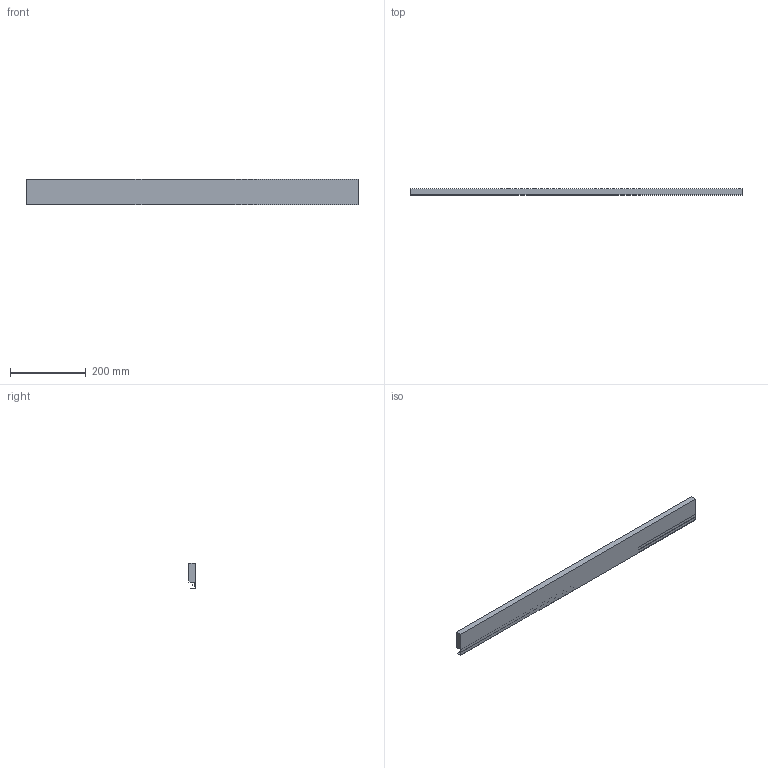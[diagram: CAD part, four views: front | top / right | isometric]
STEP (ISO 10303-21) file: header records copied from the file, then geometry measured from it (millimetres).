
FILE_DESCRIPTION (( 'STEP AP214' ), '1' );
FILE_NAME ('Innenschub-Blendenprofil_KAB1000_S16.step', '2010-09-23T12:26:53', ( 'grass' ), ( '' ), 'SwSTEP 2.0', 'SolidWorks 2010', '' );
FILE_SCHEMA (( 'AUTOMOTIVE_DESIGN' ));
Length unit declared in the file: millimetre
Products named in the file (1): Innenschub-Blendenprofil_KAB1000_S16
Bounding box: 877 x 15.9 x 67.6 mm (x, y, z)
Volume: 727187.2 mm3; surface area: 173760.4 mm2
Topology: 1 solids, 1 shells, 17 faces, 42 edges, 28 vertices
Faces by surface type: plane 15, cylinder 2
Entity records: 534 total; most frequent: CARTESIAN_POINT 88, ORIENTED_EDGE 84, DIRECTION 82, EDGE_CURVE 42, VECTOR 38, LINE 38, VERTEX_POINT 28, AXIS2_PLACEMENT_3D 22
